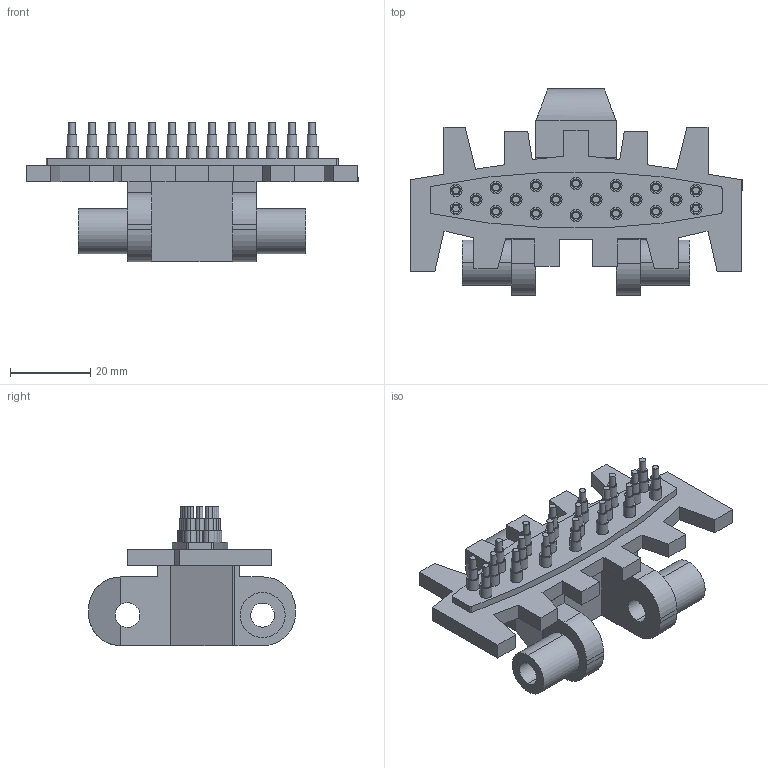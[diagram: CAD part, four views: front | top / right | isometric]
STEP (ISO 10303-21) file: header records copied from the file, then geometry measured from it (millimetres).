
FILE_DESCRIPTION (( 'STEP AP214' ), '1' );
FILE_NAME ('FMWT 5A.step', '2017-04-04T13:35:19', ( '' ), ( '' ), 'SwSTEP 2.0', 'SolidWorks 2015', '' );
FILE_SCHEMA (( 'AUTOMOTIVE_DESIGN' ));
Length unit declared in the file: millimetre
Products named in the file (1): FMWT 5A
Bounding box: 83 x 51.7 x 34.8 mm (x, y, z)
Volume: 26850.2 mm3; surface area: 13279.4 mm2
Topology: 1 solids, 1 shells, 283 faces, 648 edges, 428 vertices
Faces by surface type: cylinder 144, plane 139
Entity records: 10197 total; most frequent: DIRECTION 1496, CARTESIAN_POINT 1378, ORIENTED_EDGE 1296, EDGE_CURVE 648, AXIS2_PLACEMENT_3D 570, VERTEX_POINT 428, VECTOR 356, LINE 356
